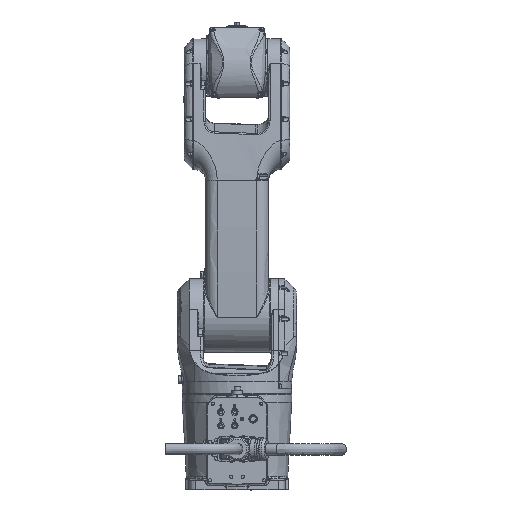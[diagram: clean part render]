
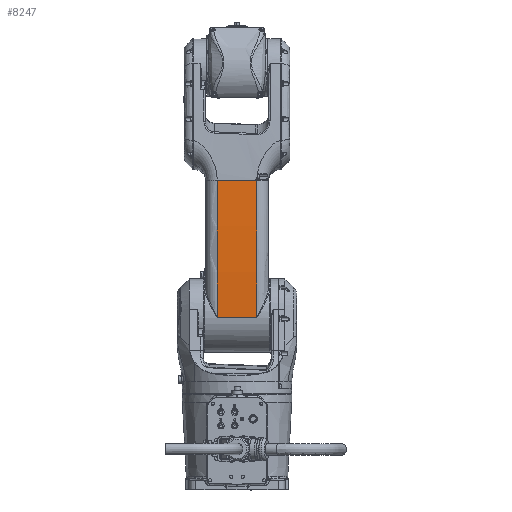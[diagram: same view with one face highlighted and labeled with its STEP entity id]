
A CAD part, left-side view. The second image highlights one B-rep face of the part: STEP entity #8247.
In plain terms, the highlighted cylindrical face has radius 3573.4 mm (diameter 7146.8 mm), a partial arc.
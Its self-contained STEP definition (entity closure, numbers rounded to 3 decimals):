
#4158=CYLINDRICAL_SURFACE('',#57000,3573.401);
#8247=ADVANCED_FACE('',(#12675),#4158,.T.);
#12675=FACE_OUTER_BOUND('',#16059,.T.);
#16059=EDGE_LOOP('',(#32388,#32389,#32390,#32391,#32392));
#19833=LINE('',#88188,#22522);
#19867=LINE('',#90246,#22556);
#19869=LINE('',#90270,#22558);
#22522=VECTOR('',#65520,1.);
#22556=VECTOR('',#65640,1.);
#22558=VECTOR('',#65646,1.);
#24961=CIRCLE('',#56998,3573.401);
#24962=CIRCLE('',#56999,3573.401);
#32388=ORIENTED_EDGE('',*,*,#50034,.T.);
#32389=ORIENTED_EDGE('',*,*,#49947,.T.);
#32390=ORIENTED_EDGE('',*,*,#50038,.T.);
#32391=ORIENTED_EDGE('',*,*,#50039,.F.);
#32392=ORIENTED_EDGE('',*,*,#50040,.T.);
#44119=VERTEX_POINT('',#88094);
#44139=VERTEX_POINT('',#88187);
#44210=VERTEX_POINT('',#90247);
#44213=VERTEX_POINT('',#90269);
#44214=VERTEX_POINT('',#90271);
#49947=EDGE_CURVE('',#44119,#44139,#19833,.T.);
#50034=EDGE_CURVE('',#44210,#44119,#19867,.T.);
#50038=EDGE_CURVE('',#44139,#44213,#24961,.T.);
#50039=EDGE_CURVE('',#44214,#44213,#19869,.T.);
#50040=EDGE_CURVE('',#44214,#44210,#24962,.T.);
#56998=AXIS2_PLACEMENT_3D('',#90268,#65644,#65645);
#56999=AXIS2_PLACEMENT_3D('',#90272,#65647,#65648);
#57000=AXIS2_PLACEMENT_3D('',#90273,#65649,#65650);
#65520=DIRECTION('',(0.,1.,0.));
#65640=DIRECTION('',(0.,1.,0.));
#65644=DIRECTION('',(0.,-1.,0.));
#65645=DIRECTION('',(0.,0.,1.));
#65646=DIRECTION('',(0.,1.,0.));
#65647=DIRECTION('',(0.,1.,0.));
#65648=DIRECTION('',(0.,0.,1.));
#65649=DIRECTION('',(0.,1.,0.));
#65650=DIRECTION('',(0.,0.,1.));
#88094=CARTESIAN_POINT('',(-84.686,-40.,95.));
#88187=CARTESIAN_POINT('',(-84.686,43.,95.));
#88188=CARTESIAN_POINT('',(-84.686,95.,95.));
#90246=CARTESIAN_POINT('',(-84.686,-68.,95.));
#90247=CARTESIAN_POINT('',(-84.686,-43.,95.));
#90268=CARTESIAN_POINT('',(3487.521,43.,2.607));
#90269=CARTESIAN_POINT('',(-79.865,43.,-204.64));
#90270=CARTESIAN_POINT('',(-79.865,-68.,-204.64));
#90271=CARTESIAN_POINT('',(-79.865,-43.,-204.64));
#90272=CARTESIAN_POINT('',(3487.521,-43.,2.607));
#90273=CARTESIAN_POINT('',(3487.521,-68.,2.607));
